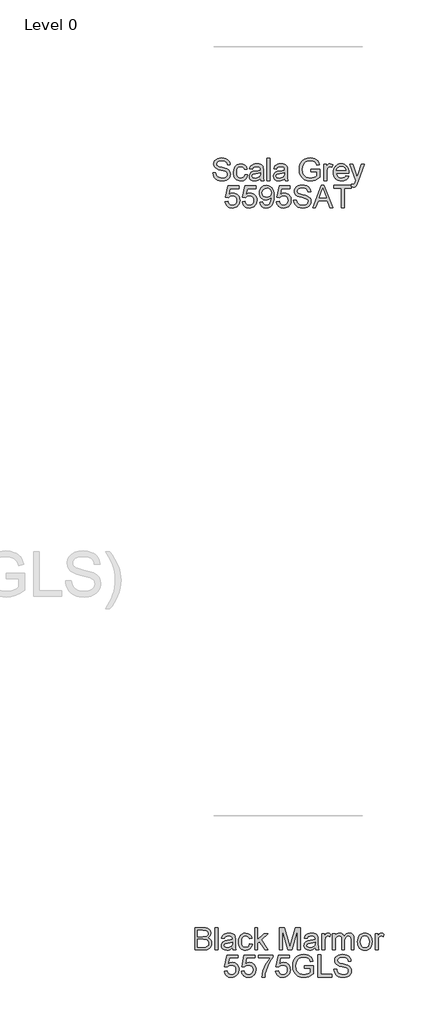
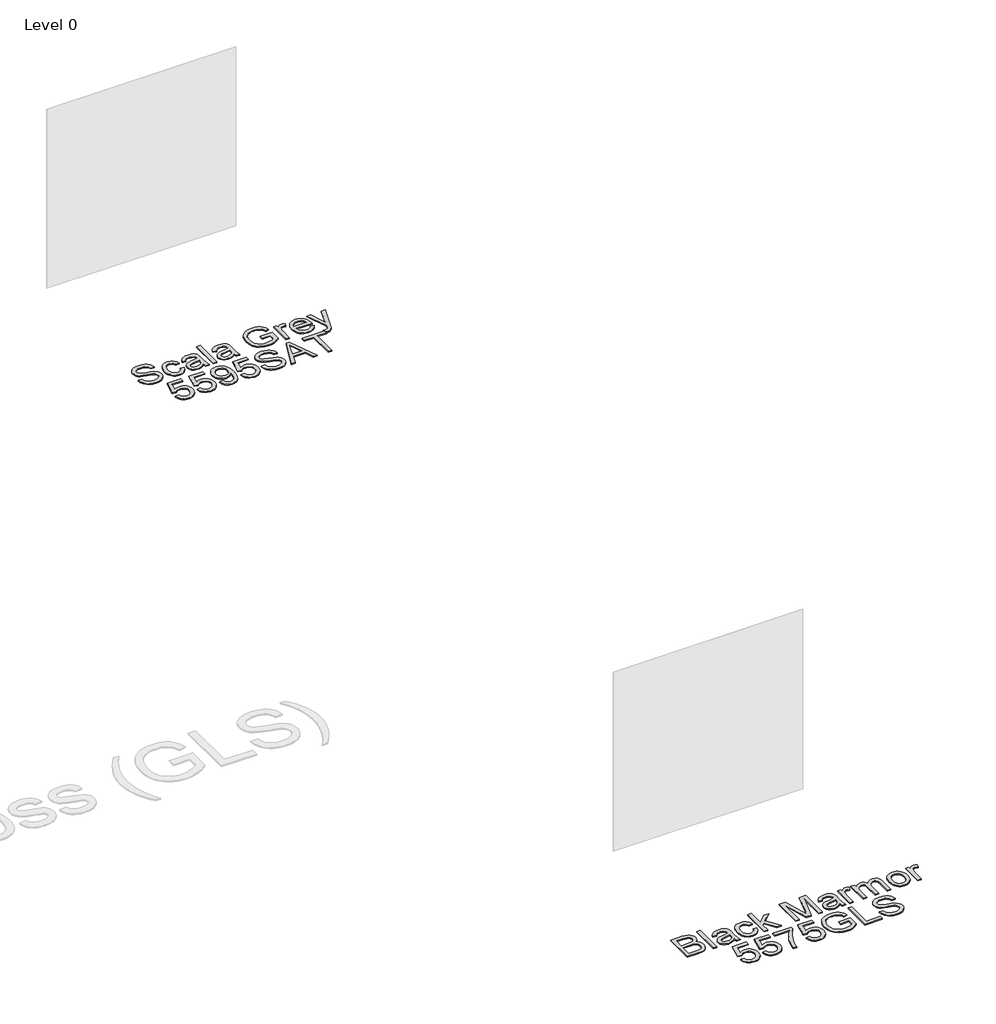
# One storey, part 12 of 29: 2 proxies.
"""IFC4 building model written with IfcOpenShell, lengths in millimetres."""

from ifc_helpers import new_model, si_unit, origin, origin_with_axes, place, context, project, spatial, polyline, outline, extrude, element, save

model = new_model("IFC4")

# Units and contexts
model_context = context("Model", 3, world=origin())
ifc_project = project(units=[si_unit("LENGTHUNIT", "METRE", prefix="MILLI")], contexts=[model_context])

# Site, building, storey
site = spatial("IfcSite", under=ifc_project)
building = spatial("IfcBuilding", under=site)
storey = spatial("IfcBuildingStorey", under=building, Name="Level 0", Elevation=0.0)

# Proxies
placement = place(None, origin())
element("IfcBuildingElementProxy", 1, Name="300mm Arial", ObjectType="300mm Arial", at=placement, inside=storey, context=model_context, shape_type="SweptSolid", body=[
    extrude(outline(polyline([(-707.931563, -42386.5303751), (-707.931563, -42085.1614447), (-592.9316513, -42085.1614447), (-561.3029968, -42087.3779337), (-536.6089179, -42094.0274008), (-517.6813892, -42105.2753928), (-503.3523855, -42121.2874566), (-494.3300796, -42140.1230148), (-491.3226443, -42159.8414897), (-493.851833, -42177.9872691), (-501.4393991, -42195.0477966), (-514.140525, -42209.9746086), (-532.0103929, -42221.7192413), (-510.6640402, -42232.8660657), (-494.8910996, -42249.8254257), (-485.1514238, -42271.4752811), (-481.9048652, -42296.6935919), (-484.1213542, -42317.7088509), (-490.7708213, -42337.1973996), (-500.6944381, -42353.7704835), (-512.7333764, -42366.039348), (-527.4762473, -42374.9236982), (-545.5116622, -42381.343239), (-593.8145681, -42386.5303751), (-707.931563, -42386.5303751)]), holes=[polyline([(-670.2604467, -42207.5925727), (-601.4665136, -42207.5925727), (-561.2937997, -42204.3552111), (-547.2315105, -42198.7726018), (-537.1239527, -42190.4124835), (-531.0263086, -42179.4036148), (-528.9937606, -42165.8747544), (-530.8883528, -42152.7413672), (-536.5721297, -42141.3002371), (-545.7875736, -42132.3699017), (-558.2771674, -42126.7688983), (-606.690438, -42122.832561), (-670.2604467, -42122.832561), (-670.2604467, -42207.5925727)]), polyline([(-670.2604467, -42348.8592588), (-593.0052277, -42348.8592588), (-565.0461961, -42347.3877308), (-541.3913838, -42339.1839623), (-525.7196108, -42322.4453316), (-521.1118888, -42310.6179254), (-519.5759815, -42297.0614739), (-521.3786033, -42281.3161245), (-526.7864686, -42267.7780671), (-536.2318388, -42257.1922627), (-550.1469753, -42250.3036723), (-569.8562532, -42246.5236848), (-596.6840477, -42245.263689), (-670.2604467, -42245.263689), (-670.2604467, -42348.8592588)])]), origin_with_axes(), (0.0, 0.0, 1.0), 10.0),
    extrude(outline(polyline([(-434.8159698, -42386.5303751), (-434.8159698, -42085.1614447), (-397.1448535, -42085.1614447), (-397.1448535, -42386.5303751), (-434.8159698, -42386.5303751)])), origin_with_axes(), (0.0, 0.0, 1.0), 10.0),
    extrude(outline(polyline([(-199.3714929, -42358.2770379), (-217.3701195, -42373.7096876), (-235.902175, -42383.8080484), (-255.3907237, -42389.3814606), (-276.2588299, -42391.2392647), (-307.7403316, -42386.7694984), (-330.9628826, -42373.3601997), (-345.2826892, -42352.9979313), (-350.0559581, -42327.6692559), (-348.2533363, -42312.0526652), (-342.845471, -42297.8708143), (-334.5037468, -42285.7307084), (-323.8995483, -42276.239353), (-297.5224092, -42263.8785179), (-264.9280644, -42258.2131352), (-226.4108195, -42252.2534469), (-199.5922221, -42245.263689), (-199.3714929, -42236.8759795), (-201.965061, -42220.0637723), (-209.7457652, -42209.0641006), (-227.1465835, -42200.8971204), (-251.390007, -42198.1747936), (-273.8308087, -42199.9866124), (-289.5025817, -42205.4220689), (-300.1895537, -42215.4744444), (-307.6759523, -42231.1370204), (-345.3470686, -42226.4281308), (-338.8079661, -42205.8267391), (-329.0498962, -42189.6399313), (-315.1623509, -42177.2607022), (-296.2348222, -42168.0820464), (-273.0858477, -42162.3982696), (-246.5339647, -42160.5036773), (-221.0673336, -42162.1775404), (-200.8798091, -42167.1991296), (-185.6586915, -42174.7499075), (-175.0912812, -42184.0113368), (-168.0831292, -42195.4616639), (-163.5397866, -42209.5791354), (-161.7003766, -42242.5413622), (-161.7003766, -42289.4095284), (-159.7873902, -42354.8557353), (-152.2825975, -42386.5303751), (-189.9537138, -42386.5303751), (-199.3714929, -42358.2770379)]), holes=[polyline([(-199.3714929, -42282.9348053), (-260.1455985, -42294.4862999), (-292.5560023, -42300.593141), (-307.2344939, -42310.5259549), (-312.3848418, -42325.0205055), (-309.5797416, -42336.2225123), (-301.164441, -42345.4011681), (-287.3228809, -42351.5264033), (-268.2390024, -42353.5681484), (-248.0054927, -42351.3148711), (-230.1264277, -42344.5550395), (-215.6318771, -42334.5946345), (-205.5519104, -42322.7396372), (-201.0821442, -42310.5259549), (-199.5922221, -42293.6033831), (-199.3714929, -42282.9348053)])]), origin_with_axes(), (0.0, 0.0, 1.0), 10.0),
    extrude(outline(polyline([(31.3640945, -42306.479253), (69.0352108, -42311.1881425), (58.5321798, -42344.6929952), (38.7953108, -42370.0124735), (11.6824077, -42385.9325669), (-20.9487252, -42391.2392647), (-42.0766481, -42389.3883584), (-61.0202716, -42383.8356395), (-77.7795957, -42374.5811081), (-92.3546205, -42361.624764), (-104.1521362, -42345.2103293), (-112.5789332, -42325.5815256), (-117.6350114, -42302.7383529), (-119.3203707, -42276.6808114), (-116.4416941, -42243.1575646), (-107.8056643, -42214.104084), (-93.2743255, -42190.6424097), (-72.709722, -42173.8945819), (-48.1076135, -42163.8514034), (-21.46376, -42160.5036773), (10.3672296, -42165.1022022), (35.8154666, -42178.897777), (54.0716106, -42201.1546378), (64.3263213, -42231.1370204), (26.6552049, -42235.8459099), (19.8217969, -42219.4107818), (9.1808102, -42207.6293609), (-4.679144, -42200.5384354), (-21.1694544, -42198.1747936), (-45.5140455, -42202.8285008), (-64.8370473, -42216.7896225), (-77.4462026, -42240.8123168), (-81.6492544, -42275.6507418), (-77.5381731, -42310.9582163), (-65.2049293, -42335.063684), (-46.2314153, -42348.9420323), (-22.199524, -42353.5681484), (-2.6925812, -42350.6802747), (13.3010885, -42342.0166537), (24.9353566, -42327.3565562), (31.3640945, -42306.479253)])), origin_with_axes(), (0.0, 0.0, 1.0), 10.0),
    extrude(outline(polyline([(101.9974376, -42386.5303751), (101.9974376, -42085.1614447), (139.6685539, -42085.1614447), (139.6685539, -42247.1030989), (224.13426, -42165.2125668), (276.2263505, -42165.2125668), (190.7305748, -42248.1331685), (280.93524, -42386.5303751), (236.9365534, -42386.5303751), (163.7280363, -42274.3263666), (139.6685539, -42297.6500851), (139.6685539, -42386.5303751), (101.9974376, -42386.5303751)])), origin_with_axes(), (0.0, 0.0, 1.0), 10.0),
    extrude(outline(polyline([(436.3285948, -42386.5303751), (436.3285948, -42085.1614447), (501.1494023, -42085.1614447), (562.8064247, -42297.5765087), (575.2408362, -42341.9430773), (588.7053172, -42293.8976887), (649.33227, -42085.1614447), (714.1530775, -42085.1614447), (714.1530775, -42386.5303751), (676.4819612, -42386.5303751), (676.4819612, -42122.832561), (600.7718466, -42386.5303751), (549.7098257, -42386.5303751), (473.9997111, -42122.832561), (473.9997111, -42386.5303751), (436.3285948, -42386.5303751)])), origin_with_axes(), (0.0, 0.0, 1.0), 10.0),
    extrude(outline(polyline([(916.6353277, -42358.2770379), (898.6367011, -42373.7096876), (880.1046456, -42383.8080484), (860.6160969, -42389.3814606), (839.7479907, -42391.2392647), (808.2664889, -42386.7694984), (785.043938, -42373.3601997), (770.7241313, -42352.9979313), (765.9508625, -42327.6692559), (767.7534842, -42312.0526652), (773.1613496, -42297.8708143), (781.5030738, -42285.7307084), (792.1072723, -42276.239353), (818.4844114, -42263.8785179), (851.0787561, -42258.2131352), (889.596001, -42252.2534469), (916.4145985, -42245.263689), (916.6353277, -42236.8759795), (914.0417596, -42220.0637723), (906.2610554, -42209.0641006), (888.860237, -42200.8971204), (864.6168136, -42198.1747936), (842.1760119, -42199.9866124), (826.5042389, -42205.4220689), (815.8172669, -42215.4744444), (808.3308683, -42231.1370204), (770.659752, -42226.4281308), (777.1988545, -42205.8267391), (786.9569244, -42189.6399313), (800.8444697, -42177.2607022), (819.7719983, -42168.0820464), (842.9209729, -42162.3982696), (869.4728559, -42160.5036773), (894.939487, -42162.1775404), (915.1270115, -42167.1991296), (930.348129, -42174.7499075), (940.9155394, -42184.0113368), (947.9236914, -42195.4616639), (952.467034, -42209.5791354), (954.306444, -42242.5413622), (954.306444, -42289.4095284), (956.2194304, -42354.8557353), (963.7242231, -42386.5303751), (926.0531068, -42386.5303751), (916.6353277, -42358.2770379)]), holes=[polyline([(916.6353277, -42282.9348053), (855.8612221, -42294.4862999), (823.4508183, -42300.593141), (808.7723267, -42310.5259549), (803.6219788, -42325.0205055), (806.427079, -42336.2225123), (814.8423796, -42345.4011681), (828.6839397, -42351.5264033), (847.7678182, -42353.5681484), (868.0013279, -42351.3148711), (885.8803929, -42344.5550395), (900.3749435, -42334.5946345), (910.4549102, -42322.7396372), (914.9246764, -42310.5259549), (916.4145985, -42293.6033831), (916.6353277, -42282.9348053)])]), origin_with_axes(), (0.0, 0.0, 1.0), 10.0),
    extrude(outline(polyline([(1006.1042289, -42386.5303751), (1006.1042289, -42165.2125668), (1039.0664557, -42165.2125668), (1039.0664557, -42197.9540644), (1051.2433497, -42178.9713534), (1062.4637506, -42167.7877408), (1073.7209396, -42162.3246932), (1086.0081983, -42160.5036773), (1104.77018, -42163.409945), (1123.8264674, -42172.1287483), (1111.2449031, -42205.9003155), (1098.0011513, -42200.1061741), (1084.7573995, -42198.1747936), (1073.5094075, -42200.0325977), (1063.457032, -42205.6060099), (1055.3360369, -42214.471966), (1049.8821863, -42226.2074016), (1045.3020555, -42247.2502517), (1043.7753452, -42270.2060882), (1043.7753452, -42386.5303751), (1006.1042289, -42386.5303751)])), origin_with_axes(), (0.0, 0.0, 1.0), 10.0),
    extrude(outline(polyline([(1147.3709151, -42386.5303751), (1147.3709151, -42165.2125668), (1185.0420314, -42165.2125668), (1185.0420314, -42201.6328843), (1196.3727968, -42184.9034506), (1210.9409238, -42171.7976545), (1228.2497717, -42163.3271716), (1247.8026997, -42160.5036773), (1268.7535794, -42163.3823539), (1285.5473924, -42172.0183837), (1298.0921685, -42185.8415497), (1306.295937, -42204.2816347), (1320.0271324, -42185.1287783), (1335.6897084, -42171.4481666), (1353.2836648, -42163.2397996), (1372.8090017, -42160.5036773), (1401.1267183, -42165.056217), (1422.0684009, -42178.713836), (1435.00865, -42201.8444165), (1439.3220664, -42234.8158403), (1439.3220664, -42386.5303751), (1401.6509501, -42386.5303751), (1401.6509501, -42251.0026481), (1398.1560712, -42219.5487375), (1393.2448465, -42210.8759195), (1385.5009305, -42204.0609055), (1375.5405255, -42199.6463216), (1363.9798338, -42198.1747936), (1343.5715801, -42201.945584), (1326.9341169, -42213.2579554), (1315.8700659, -42232.8844598), (1312.1820489, -42261.5976496), (1312.1820489, -42386.5303751), (1274.5109326, -42386.5303751), (1274.5109326, -42246.8087934), (1272.3312318, -42225.5084258), (1265.7921293, -42210.3148994), (1254.2866199, -42201.2098201), (1237.2076983, -42198.1747936), (1222.6947536, -42200.1981446), (1209.322243, -42206.2681975), (1198.2857832, -42216.2377996), (1190.7809905, -42229.959798), (1186.4767711, -42248.9976912), (1185.0420314, -42274.9149778), (1185.0420314, -42386.5303751), (1147.3709151, -42386.5303751)])), origin_with_axes(), (0.0, 0.0, 1.0), 10.0),
    extrude(outline(polyline([(1486.4109618, -42275.871471), (1488.4481084, -42247.208865), (1494.559548, -42222.5101876), (1504.7452807, -42201.7754386), (1519.0053066, -42185.0046182), (1533.3619014, -42174.2854565), (1549.2084184, -42166.6289125), (1566.5448574, -42162.0349861), (1585.3712185, -42160.5036773), (1606.154252, -42162.3683791), (1624.9461241, -42167.9624847), (1641.746835, -42177.2859941), (1656.5563846, -42190.3389071), (1668.6436074, -42206.6797655), (1677.277338, -42225.8671108), (1682.4575763, -42247.900943), (1684.1843224, -42272.7812622), (1681.1309019, -42310.8386546), (1671.9706402, -42339.8093617), (1656.9702518, -42361.5052024), (1636.3964512, -42377.7379954), (1611.9598897, -42387.8639474), (1585.3712185, -42391.2392647), (1564.2846824, -42389.3814606), (1545.3180663, -42383.8080484), (1528.4713702, -42374.519028), (1513.744594, -42361.5143994), (1501.7861299, -42345.014892), (1493.2443699, -42325.2412347), (1488.1193138, -42302.1934277), (1486.4109618, -42275.871471)]), holes=[polyline([(1524.0820781, -42275.7978946), (1528.4414798, -42309.8913585), (1541.5196847, -42334.1807672), (1561.2013714, -42348.7213031), (1585.3712185, -42353.5681484), (1609.430701, -42348.6937119), (1629.0755995, -42334.0704026), (1642.1538045, -42309.4590971), (1646.5132061, -42274.6206722), (1642.1262133, -42241.5204897), (1628.9652349, -42217.5621747), (1609.2927452, -42203.0216389), (1585.3712185, -42198.1747936), (1561.2013714, -42203.0032448), (1541.5196847, -42217.4885983), (1528.4414798, -42241.7228248), (1524.0820781, -42275.7978946)])]), origin_with_axes(), (0.0, 0.0, 1.0), 10.0),
    extrude(outline(polyline([(1726.5643283, -42386.5303751), (1726.5643283, -42165.2125668), (1759.526555, -42165.2125668), (1759.526555, -42197.9540644), (1771.7034491, -42178.9713534), (1782.9238499, -42167.7877408), (1794.181039, -42162.3246932), (1806.4682976, -42160.5036773), (1825.2302794, -42163.409945), (1844.2865667, -42172.1287483), (1831.7050025, -42205.9003155), (1818.4612507, -42200.1061741), (1805.2174988, -42198.1747936), (1793.9695068, -42200.0325977), (1783.9171313, -42205.6060099), (1775.7961363, -42214.471966), (1770.3422857, -42226.2074016), (1765.7621548, -42247.2502517), (1764.2354446, -42270.2060882), (1764.2354446, -42386.5303751), (1726.5643283, -42386.5303751)])), origin_with_axes(), (0.0, 0.0, 1.0), 10.0),
    extrude(outline(polyline([(-310.030397, -42672.4037065), (-272.3592807, -42667.694817), (-265.4430992, -42690.3103626), (-253.3765698, -42706.5063675), (-236.2148747, -42716.2460433), (-214.0131963, -42719.4926019), (-187.0106579, -42714.9768504), (-166.7771481, -42701.4295959), (-154.1404016, -42680.414337), (-149.9281527, -42653.494572), (-153.8736871, -42628.1475025), (-165.7102903, -42608.7601213), (-185.5299328, -42596.4544686), (-213.4245851, -42592.3525844), (-231.6991232, -42593.9896592), (-246.4971765, -42598.9008839), (-267.6503912, -42615.897032), (-305.3215075, -42611.1881425), (-272.3592807, -42455.7947877), (-126.383705, -42455.7947877), (-126.383705, -42493.4659041), (-241.8986515, -42493.4659041), (-258.0118829, -42576.4600822), (-231.101315, -42560.1261216), (-202.90316, -42554.681468), (-184.5573448, -42556.3691267), (-167.7060502, -42561.4321027), (-152.3492761, -42569.8703959), (-138.4870227, -42581.6840065), (-127.0114037, -42596.150966), (-118.814533, -42612.5493059), (-113.8964106, -42630.8790263), (-112.2570364, -42651.1401272), (-118.1615425, -42688.8112435), (-125.542175, -42705.6050566), (-135.8750605, -42721.0377063), (-151.5284394, -42736.8428365), (-169.7937805, -42748.1322152), (-190.6710837, -42754.9058424), (-214.1603491, -42757.1637182), (-251.1600808, -42751.3603797), (-266.8387515, -42744.1062066), (-280.6366256, -42733.9503643), (-292.1168431, -42721.3986905), (-300.8425442, -42706.9570229), (-310.030397, -42672.4037065)])), origin_with_axes(), (0.0, 0.0, 1.0), 10.0),
    extrude(outline(polyline([(-79.2948097, -42672.4037065), (-41.6236934, -42667.694817), (-34.7075119, -42690.3103626), (-22.6409824, -42706.5063675), (-5.4792873, -42716.2460433), (16.7223911, -42719.4926019), (43.7249295, -42714.9768504), (63.9584393, -42701.4295959), (76.5951858, -42680.414337), (80.8074346, -42653.494572), (76.8619002, -42628.1475025), (65.025297, -42608.7601213), (45.2056546, -42596.4544686), (17.3110023, -42592.3525844), (-0.9635358, -42593.9896592), (-15.7615891, -42598.9008839), (-36.9148038, -42615.897032), (-74.5859201, -42611.1881425), (-41.6236934, -42455.7947877), (104.3518823, -42455.7947877), (104.3518823, -42493.4659041), (-11.1630642, -42493.4659041), (-27.2762955, -42576.4600822), (-0.3657276, -42560.1261216), (27.8324273, -42554.681468), (46.1782426, -42556.3691267), (63.0295372, -42561.4321027), (78.3863113, -42569.8703959), (92.2485647, -42581.6840065), (103.7241837, -42596.150966), (111.9210544, -42612.5493059), (116.8391768, -42630.8790263), (118.4785509, -42651.1401272), (112.5740449, -42688.8112435), (105.1934124, -42705.6050566), (94.8605269, -42721.0377063), (79.207148, -42736.8428365), (60.9418069, -42748.1322152), (40.0645037, -42754.9058424), (16.5752383, -42757.1637182), (-20.4244934, -42751.3603797), (-36.1031642, -42744.1062066), (-49.9010383, -42733.9503643), (-61.3812558, -42721.3986905), (-70.1069568, -42706.9570229), (-79.2948097, -42672.4037065)])), origin_with_axes(), (0.0, 0.0, 1.0), 10.0),
    extrude(outline(polyline([(151.4407777, -42493.4659041), (151.4407777, -42455.7947877), (349.2141383, -42455.7947877), (349.2141383, -42486.2554169), (321.0251804, -42521.9307734), (293.1121341, -42567.2998205), (268.4916315, -42618.2238857), (250.1803052, -42670.5642965), (241.2039845, -42709.7253349), (236.2007894, -42752.4548287), (198.5296731, -42752.4548287), (202.6039662, -42713.6248841), (213.5024703, -42667.4740878), (230.9308798, -42618.5549795), (254.5948892, -42571.4200988), (282.222827, -42528.8101667), (311.543022, -42493.4659041), (151.4407777, -42493.4659041)])), origin_with_axes(), (0.0, 0.0, 1.0), 10.0),
    extrude(outline(polyline([(382.1763651, -42672.4037065), (419.8474814, -42667.694817), (426.7636629, -42690.3103626), (438.8301923, -42706.5063675), (455.9918874, -42716.2460433), (478.1935658, -42719.4926019), (505.1961043, -42714.9768504), (525.429614, -42701.4295959), (538.0663605, -42680.414337), (542.2786094, -42653.494572), (538.333075, -42628.1475025), (526.4964718, -42608.7601213), (506.6768293, -42596.4544686), (478.782177, -42592.3525844), (460.5076389, -42593.9896592), (445.7095857, -42598.9008839), (424.5563709, -42615.897032), (386.8852546, -42611.1881425), (419.8474814, -42455.7947877), (565.8230571, -42455.7947877), (565.8230571, -42493.4659041), (450.3081106, -42493.4659041), (434.1948792, -42576.4600822), (461.1054471, -42560.1261216), (489.3036021, -42554.681468), (507.6494173, -42556.3691267), (524.500712, -42561.4321027), (539.857486, -42569.8703959), (553.7197394, -42581.6840065), (565.1953584, -42596.150966), (573.3922291, -42612.5493059), (578.3103516, -42630.8790263), (579.9497257, -42651.1401272), (574.0452197, -42688.8112435), (566.6645871, -42705.6050566), (556.3317016, -42721.0377063), (540.6783227, -42736.8428365), (522.4129816, -42748.1322152), (501.5356784, -42754.9058424), (478.046413, -42757.1637182), (441.0466814, -42751.3603797), (425.3680106, -42744.1062066), (411.5701365, -42733.9503643), (400.089919, -42721.3986905), (391.3642179, -42706.9570229), (382.1763651, -42672.4037065)])), origin_with_axes(), (0.0, 0.0, 1.0), 10.0),
    extrude(outline(polyline([(768.3053072, -42634.7325902), (768.3053072, -42597.0614739), (890.7364352, -42597.0614739), (890.7364352, -42709.7069408), (860.9839789, -42730.400303), (830.2934234, -42745.2443416), (798.7383453, -42754.183874), (766.3923208, -42757.1637182), (724.1318767, -42752.4272375), (685.9365285, -42738.2177954), (654.2067064, -42715.0320327), (631.3428404, -42683.36659), (617.5196744, -42645.382774), (612.9119525, -42603.2418914), (617.5012803, -42560.7975062), (631.269264, -42521.3145711), (653.6456864, -42488.1959945), (684.0603303, -42464.8446848), (721.1060472, -42450.9939277), (763.3756885, -42446.3770087), (794.4065348, -42449.0533502), (822.3103841, -42457.0823747), (845.8088466, -42469.8846682), (863.6235322, -42486.8808163), (876.8029046, -42508.8893567), (886.3954277, -42536.7288267), (851.6673673, -42546.5144878), (843.9142543, -42526.6580571), (834.4872782, -42511.6760628), (822.0160785, -42500.3820856), (805.1302949, -42491.5897059), (784.9979528, -42485.9335202), (762.7870773, -42484.048125), (736.7870173, -42486.080673), (714.5577477, -42492.1783171), (696.1820421, -42501.577702), (681.7426738, -42513.5154728), (662.3552926, -42542.5413622), (653.5261247, -42570.9786404), (650.5830688, -42601.696787), (654.123933, -42637.7216314), (664.7465256, -42667.3637232), (682.1289499, -42690.4115302), (705.949309, -42706.6535203), (733.8255672, -42716.2828315), (763.3756885, -42719.4926019), (789.467719, -42717.0737778), (814.915956, -42709.8173054), (837.0164669, -42699.8201122), (853.0653189, -42689.1791255), (853.0653189, -42634.7325902), (768.3053072, -42634.7325902)])), origin_with_axes(), (0.0, 0.0, 1.0), 10.0),
    extrude(outline(polyline([(951.9519992, -42752.4548287), (951.9519992, -42451.0858982), (989.6231155, -42451.0858982), (989.6231155, -42714.7837124), (1140.3075807, -42714.7837124), (1140.3075807, -42752.4548287), (951.9519992, -42752.4548287)])), origin_with_axes(), (0.0, 0.0, 1.0), 10.0),
    extrude(outline(polyline([(1168.560918, -42648.8592588), (1206.2320343, -42648.8592588), (1210.5546477, -42669.7641532), (1218.3721401, -42686.5671633), (1230.5674283, -42699.9028856), (1248.0234289, -42710.4059166), (1269.3605847, -42717.2209306), (1293.1993379, -42719.4926019), (1314.1870058, -42717.7727536), (1332.5627114, -42712.6132086), (1347.4527352, -42704.4462283), (1357.9833573, -42693.704074), (1364.2465483, -42681.3708301), (1366.3342786, -42668.430581), (1364.7707801, -42655.8214256), (1360.0802847, -42644.9229215), (1350.552141, -42635.624704), (1334.4756978, -42627.8164087), (1279.6244923, -42613.4322227), (1243.618042, -42603.9132761), (1220.5794321, -42594.8541819), (1201.8266474, -42582.1806472), (1188.5369103, -42566.8215739), (1180.6182504, -42549.1080558), (1177.9786971, -42529.3711868), (1181.2436498, -42507.3074641), (1191.0385079, -42486.7336635), (1207.105754, -42469.296057), (1229.1878708, -42456.6409163), (1255.6937685, -42448.9429856), (1285.0323576, -42446.3770087), (1316.817362, -42449.0625472), (1344.6292409, -42457.1191629), (1367.4747128, -42470.3813089), (1384.3604963, -42488.6834381), (1395.0474683, -42510.8851165), (1399.2965053, -42535.8459099), (1361.625389, -42535.8459099), (1354.7092075, -42513.36832), (1340.2882333, -42497.144724), (1317.7554611, -42487.3222747), (1286.5038856, -42484.048125), (1254.5165461, -42487.2854865), (1232.5723851, -42496.9975712), (1219.8804563, -42511.2897867), (1215.6498134, -42528.2675408), (1218.6480516, -42542.7436973), (1227.6427664, -42554.3871625), (1248.9063457, -42564.7982229), (1289.152636, -42575.4300126), (1330.6865132, -42585.5283733), (1355.8128535, -42594.3391471), (1377.287965, -42608.0059633), (1392.2699592, -42624.8733527), (1401.071536, -42644.7573746), (1404.0053949, -42667.4740878), (1400.6300776, -42690.6966387), (1390.5041257, -42712.5396322), (1374.0414064, -42731.3384021), (1351.655787, -42745.4282825), (1324.736022, -42754.2298593), (1294.6708659, -42757.1637182), (1257.7631048, -42753.999933), (1227.385249, -42744.5085776), (1203.1878108, -42728.6528636), (1184.8213022, -42706.3960029), (1173.0306842, -42679.2830998), (1168.560918, -42648.8592588)])), origin_with_axes(), (0.0, 0.0, 1.0), 10.0),
])
element("IfcBuildingElementProxy", 2, Name="300mm Arial", ObjectType="300mm Arial", at=placement, inside=storey, context=model_context, shape_type="SweptSolid", body=[
    extrude(outline(polyline([(-463.069307, -31919.2649241), (-425.3981907, -31919.2649241), (-421.0755773, -31940.1698185), (-413.2580849, -31956.9728286), (-401.0627967, -31970.308551), (-383.6067961, -31980.8115819), (-362.2696404, -31987.6265959), (-338.4308871, -31989.8982672), (-317.4432192, -31988.1784189), (-299.0675136, -31983.0188739), (-284.1774898, -31974.8518936), (-273.6468677, -31964.1097394), (-267.3836767, -31951.7764955), (-265.2959464, -31938.8362463), (-266.8594449, -31926.2270909), (-271.5499403, -31915.3285868), (-281.078084, -31906.0303694), (-297.1545272, -31898.222074), (-352.0057327, -31883.837888), (-388.012183, -31874.3189414), (-411.0507929, -31865.2598472), (-429.8035776, -31852.5863125), (-443.0933147, -31837.2272392), (-451.0119746, -31819.5137211), (-453.651528, -31799.7768521), (-450.3865753, -31777.7131294), (-440.5917171, -31757.1393289), (-424.524471, -31739.7017223), (-402.4423542, -31727.0465817), (-375.9364565, -31719.3486509), (-346.5978674, -31716.782674), (-314.812863, -31719.4682126), (-287.0009841, -31727.5248283), (-264.1555122, -31740.7869742), (-247.2697287, -31759.0891034), (-236.5827567, -31781.2907818), (-232.3337197, -31806.2515752), (-270.004836, -31806.2515752), (-276.9210175, -31783.7739853), (-291.3419917, -31767.5503893), (-313.8747639, -31757.7279401), (-345.1263394, -31754.4537903), (-377.1136789, -31757.6911519), (-399.0578399, -31767.4032365), (-411.7497687, -31781.695452), (-415.9804117, -31798.6732061), (-412.9821734, -31813.1493626), (-403.9874586, -31824.7928278), (-382.7238793, -31835.2038882), (-342.477589, -31845.8356779), (-300.9437118, -31855.9340387), (-275.8173715, -31864.7448125), (-254.34226, -31878.4116286), (-239.3602658, -31895.2790181), (-230.558689, -31915.1630399), (-227.6248301, -31937.8797531), (-231.0001474, -31961.102304), (-241.1260993, -31982.9452975), (-257.5888186, -32001.7440675), (-279.974438, -32015.8339479), (-306.894203, -32024.6355246), (-336.9593591, -32027.5693835), (-373.8671203, -32024.4055984), (-404.244976, -32014.9142429), (-428.4424142, -31999.0585289), (-446.8089228, -31976.8016682), (-458.5995408, -31949.6887651), (-463.069307, -31919.2649241)])), origin_with_axes(), (0.0, 0.0, 1.0), 10.0),
    extrude(outline(polyline([(-34.5603591, -31942.8093718), (3.1107573, -31947.5182614), (-7.3922737, -31981.0231141), (-27.1291427, -32006.3425924), (-54.2420458, -32022.2626857), (-86.8731788, -32027.5693835), (-108.0011016, -32025.7184772), (-126.9447251, -32020.1657584), (-143.7040492, -32010.9112269), (-158.279074, -31997.9548829), (-170.0765898, -31981.5404481), (-178.5033867, -31961.9116444), (-183.5594649, -31939.0684718), (-185.2448243, -31913.0109302), (-182.3661477, -31879.4876834), (-173.7301178, -31850.4342028), (-159.198779, -31826.9725286), (-138.6341755, -31810.2247008), (-114.0320671, -31800.1815223), (-87.3882136, -31796.8337961), (-55.5572239, -31801.4323211), (-30.1089869, -31815.2278959), (-11.8528429, -31837.4847566), (-1.5981323, -31867.4671392), (-39.2692486, -31872.1760288), (-46.1026567, -31855.7409006), (-56.7436434, -31843.9594797), (-70.6035975, -31836.8685543), (-87.093908, -31834.5049125), (-111.438499, -31839.1586197), (-130.7615008, -31853.1197414), (-143.3706562, -31877.1424357), (-147.573708, -31911.9808606), (-143.4626267, -31947.2883351), (-131.1293828, -31971.3938029), (-112.1558689, -31985.2721511), (-88.1239775, -31989.8982672), (-68.6170348, -31987.0103936), (-52.623365, -31978.3467726), (-40.9890969, -31963.6866751), (-34.5603591, -31942.8093718)])), origin_with_axes(), (0.0, 0.0, 1.0), 10.0),
    extrude(outline(polyline([(177.3396702, -31994.6071568), (159.3410436, -32010.0398064), (140.808988, -32020.1381672), (121.3204394, -32025.7115794), (100.4523332, -32027.5693835), (68.9708314, -32023.0996173), (45.7482805, -32009.6903186), (31.4284738, -31989.3280501), (26.6552049, -31963.9993748), (28.4578267, -31948.3827841), (33.8656921, -31934.2009331), (42.2074163, -31922.0608273), (52.8116148, -31912.5694718), (79.1887539, -31900.2086368), (111.7830986, -31894.5432541), (150.3003435, -31888.5835657), (177.118941, -31881.5938078), (177.3396702, -31873.2060983), (174.7461021, -31856.3938912), (166.9653979, -31845.3942195), (149.5645795, -31837.2272392), (125.3211561, -31834.5049125), (102.8803543, -31836.3167313), (87.2085814, -31841.7521878), (76.5216094, -31851.8045633), (69.0352108, -31867.4671392), (31.3640945, -31862.7582497), (37.9031969, -31842.156858), (47.6612669, -31825.9700502), (61.5488122, -31813.590821), (80.4763408, -31804.4121652), (103.6253154, -31798.7283884), (130.1771984, -31796.8337961), (155.6438295, -31798.5076592), (175.831354, -31803.5292485), (191.0524715, -31811.0800264), (201.6198819, -31820.3414556), (208.6280339, -31831.7917827), (213.1713765, -31845.9092543), (215.0107865, -31878.8714811), (215.0107865, -31925.7396473), (216.9237729, -31991.1858542), (224.4285656, -32022.860494), (186.7574492, -32022.860494), (177.3396702, -31994.6071568)]), holes=[polyline([(177.3396702, -31919.2649241), (116.5655646, -31930.8164188), (84.1551608, -31936.9232599), (69.4766692, -31946.8560738), (64.3263213, -31961.3506244), (67.1314215, -31972.5526311), (75.5467221, -31981.7312869), (89.3882822, -31987.8565221), (108.4721607, -31989.8982672), (128.7056704, -31987.64499), (146.5847354, -31980.8851583), (161.079286, -31970.9247533), (171.1592527, -31959.069756), (175.6290189, -31946.8560738), (177.118941, -31929.933502), (177.3396702, -31919.2649241)])]), origin_with_axes(), (0.0, 0.0, 1.0), 10.0),
    extrude(outline(polyline([(266.8085714, -32022.860494), (266.8085714, -31721.4915635), (304.4796877, -31721.4915635), (304.4796877, -32022.860494), (266.8085714, -32022.860494)])), origin_with_axes(), (0.0, 0.0, 1.0), 10.0),
    extrude(outline(polyline([(502.2530483, -31994.6071568), (484.2544217, -32010.0398064), (465.7223662, -32020.1381672), (446.2338175, -32025.7115794), (425.3657113, -32027.5693835), (393.8842096, -32023.0996173), (370.6616586, -32009.6903186), (356.341852, -31989.3280501), (351.5685831, -31963.9993748), (353.3712049, -31948.3827841), (358.7790702, -31934.2009331), (367.1207944, -31922.0608273), (377.7249929, -31912.5694718), (404.102132, -31900.2086368), (436.6964768, -31894.5432541), (475.2137217, -31888.5835657), (502.0323191, -31881.5938078), (502.2530483, -31873.2060983), (499.6594802, -31856.3938912), (491.878776, -31845.3942195), (474.4779577, -31837.2272392), (450.2345342, -31834.5049125), (427.7937325, -31836.3167313), (412.1219595, -31841.7521878), (401.4349875, -31851.8045633), (393.9485889, -31867.4671392), (356.2774726, -31862.7582497), (362.8165751, -31842.156858), (372.574645, -31825.9700502), (386.4621903, -31813.590821), (405.389719, -31804.4121652), (428.5386935, -31798.7283884), (455.0905765, -31796.8337961), (480.5572076, -31798.5076592), (500.7447321, -31803.5292485), (515.9658497, -31811.0800264), (526.53326, -31820.3414556), (533.541412, -31831.7917827), (538.0847546, -31845.9092543), (539.9241646, -31878.8714811), (539.9241646, -31925.7396473), (541.837151, -31991.1858542), (549.3419437, -32022.860494), (511.6708274, -32022.860494), (502.2530483, -31994.6071568)]), holes=[polyline([(502.2530483, -31919.2649241), (441.4789427, -31930.8164188), (409.0685389, -31936.9232599), (394.3900473, -31946.8560738), (389.2396994, -31961.3506244), (392.0447996, -31972.5526311), (400.4601002, -31981.7312869), (414.3016603, -31987.8565221), (433.3855388, -31989.8982672), (453.6190485, -31987.64499), (471.4981135, -31980.8851583), (485.9926641, -31970.9247533), (496.0726308, -31959.069756), (500.542397, -31946.8560738), (502.0323191, -31929.933502), (502.2530483, -31919.2649241)])]), origin_with_axes(), (0.0, 0.0, 1.0), 10.0),
    extrude(outline(polyline([(855.4197637, -31905.1382555), (855.4197637, -31867.4671392), (977.8508917, -31867.4671392), (977.8508917, -31980.1126061), (948.0984353, -32000.8059684), (917.4078799, -32015.6500069), (885.8528017, -32024.5895394), (853.5067773, -32027.5693835), (811.2463331, -32022.8329028), (773.050985, -32008.6234608), (741.3211629, -31985.437698), (718.4572969, -31953.7722553), (704.6341309, -31915.7884393), (700.0264089, -31873.6475567), (704.6157368, -31831.2031715), (718.3837205, -31791.7202364), (740.7601428, -31758.6016598), (771.1747868, -31735.2503502), (808.2205037, -31721.399593), (850.4901449, -31716.782674), (881.5209912, -31719.4590155), (909.4248406, -31727.4880401), (932.923303, -31740.2903335), (950.7379886, -31757.2864817), (963.9173611, -31779.295022), (973.5098841, -31807.134492), (938.7818238, -31816.9201531), (931.0287107, -31797.0637224), (921.6017346, -31782.0817281), (909.130535, -31770.7877509), (892.2447514, -31761.9953712), (872.1124092, -31756.3391855), (849.9015338, -31754.4537903), (823.9014737, -31756.4863383), (801.6722042, -31762.5839824), (783.2964985, -31771.9833674), (768.8571302, -31783.9211381), (749.4697491, -31812.9470275), (740.6405812, -31841.3843058), (737.6975252, -31872.1024524), (741.2383894, -31908.1272967), (751.860982, -31937.7693885), (769.2434063, -31960.8171955), (793.0637655, -31977.0591856), (820.9400237, -31986.6884968), (850.4901449, -31989.8982672), (876.5821755, -31987.4794431), (902.0304125, -31980.2229707), (924.1309233, -31970.2257775), (940.1797754, -31959.5847908), (940.1797754, -31905.1382555), (855.4197637, -31905.1382555)])), origin_with_axes(), (0.0, 0.0, 1.0), 10.0),
    extrude(outline(polyline([(1034.3575661, -32022.860494), (1034.3575661, -31801.5426857), (1067.3197929, -31801.5426857), (1067.3197929, -31834.2841833), (1079.4966869, -31815.3014723), (1090.7170878, -31804.1178596), (1101.9742768, -31798.654812), (1114.2615355, -31796.8337961), (1133.0235172, -31799.7400639), (1152.0798046, -31808.4588672), (1139.4982404, -31842.2304343), (1126.2544885, -31836.4362929), (1113.0107367, -31834.5049125), (1101.7627447, -31836.3627165), (1091.7103692, -31841.9361288), (1083.5893741, -31850.8020848), (1078.1355236, -31862.5375205), (1073.5553927, -31883.5803706), (1072.0286824, -31906.5362071), (1072.0286824, -32022.860494), (1034.3575661, -32022.860494)])), origin_with_axes(), (0.0, 0.0, 1.0), 10.0),
    extrude(outline(polyline([(1330.5761486, -31956.9360404), (1367.511501, -31961.64493), (1354.2033698, -31989.4752029), (1332.9673816, -32010.2789297), (1304.281783, -32023.2467701), (1268.6248207, -32027.5693835), (1245.2505184, -32025.7046817), (1224.4237989, -32020.1105761), (1206.1446623, -32010.7870668), (1190.4131085, -31997.7341537), (1177.7625664, -31981.3151204), (1168.7264649, -31961.8932503), (1163.304804, -31939.4685435), (1161.4975837, -31914.0409998), (1163.3231981, -31887.7512327), (1168.8000413, -31864.5792656), (1177.9281133, -31844.5250983), (1190.7074141, -31827.5887309), (1206.3975812, -31814.133447), (1224.258252, -31804.5225298), (1244.2894267, -31798.7559796), (1266.4911051, -31796.8337961), (1287.9777129, -31798.751381), (1307.40878, -31804.5041357), (1324.7843065, -31814.0920602), (1340.1042923, -31827.5151545), (1352.6099809, -31844.4147337), (1361.5426156, -31864.4321128), (1366.9021964, -31887.5672917), (1368.6887234, -31913.8202706), (1368.4679942, -31923.9738137), (1199.1687, -31923.9738137), (1205.6894083, -31952.1719686), (1220.8369495, -31972.902119), (1242.6983371, -31985.6492302), (1269.3605847, -31989.8982672), (1289.4101534, -31987.9300985), (1306.295937, -31982.0255925), (1320.0179354, -31971.8168672), (1330.5761486, -31956.9360404)]), holes=[polyline([(1199.1687, -31886.3026974), (1331.017607, -31886.3026974), (1325.9224414, -31866.4002814), (1315.9344452, -31852.1632482), (1293.9718901, -31838.9194964), (1266.3439523, -31834.5049125), (1240.9508976, -31838.0273826), (1219.9540327, -31848.5947929), (1205.3583145, -31865.0667092), (1199.1687, -31886.3026974)])]), origin_with_axes(), (0.0, 0.0, 1.0), 10.0),
    extrude(outline(polyline([(1406.3598397, -32107.6205057), (1401.6509501, -32071.3473409), (1420.7808139, -32074.6582789), (1438.6598788, -32070.5012124), (1449.6227623, -32058.9129295), (1459.9234582, -32031.1746271), (1462.8665141, -32022.0511536), (1382.815392, -31801.5426857), (1422.5466474, -31801.5426857), (1465.0002297, -31924.4152721), (1479.7890859, -31973.5643066), (1494.5779421, -31930.1542312), (1538.2087467, -31801.5426857), (1577.6456966, -31801.5426857), (1500.6112068, -32028.1579947), (1480.5984263, -32077.3070293), (1470.3529127, -32092.9971964), (1458.7462358, -32103.8681093), (1445.2633606, -32110.2140737), (1429.3892526, -32112.3293952), (1406.3598397, -32107.6205057)])), origin_with_axes(), (0.0, 0.0, 1.0), 10.0),
    extrude(outline(polyline([(-298.2581732, -32308.7338254), (-260.5870569, -32304.0249358), (-253.6708754, -32326.6404815), (-241.6043459, -32342.8364863), (-224.4426509, -32352.5761621), (-202.2409725, -32355.8227207), (-175.238434, -32351.3069693), (-155.0049243, -32337.7597148), (-142.3681777, -32316.7444558), (-138.1559289, -32289.8246908), (-142.1014633, -32264.4776213), (-153.9380665, -32245.0902402), (-173.757709, -32232.7845875), (-201.6523613, -32228.6827032), (-219.9268994, -32230.3197781), (-234.7249526, -32235.2310027), (-255.8781674, -32252.2271509), (-293.5492837, -32247.5182614), (-260.5870569, -32092.1249066), (-114.6114812, -32092.1249066), (-114.6114812, -32129.7960229), (-230.1264277, -32129.7960229), (-246.2396591, -32212.790201), (-219.3290911, -32196.4562404), (-191.1309362, -32191.0115869), (-172.785121, -32192.6992456), (-155.9338263, -32197.7622215), (-140.5770523, -32206.2005148), (-126.7147988, -32218.0141254), (-115.2391799, -32232.4810848), (-107.0423092, -32248.8794248), (-102.1241867, -32267.2091452), (-100.4848126, -32287.470246), (-106.3893186, -32325.1413624), (-113.7699511, -32341.9351754), (-124.1028367, -32357.3678251), (-139.7562156, -32373.1729553), (-158.0215566, -32384.4623341), (-178.8988599, -32391.2359613), (-202.3881253, -32393.4938371), (-239.3878569, -32387.6904986), (-255.0665277, -32380.4363255), (-268.8644018, -32370.2804832), (-280.3446193, -32357.7288093), (-289.0703204, -32343.2871418), (-298.2581732, -32308.7338254)])), origin_with_axes(), (0.0, 0.0, 1.0), 10.0),
    extrude(outline(polyline([(-67.5225858, -32308.7338254), (-29.8514695, -32304.0249358), (-22.935288, -32326.6404815), (-10.8687586, -32342.8364863), (6.2929365, -32352.5761621), (28.4946149, -32355.8227207), (55.4971534, -32351.3069693), (75.7306631, -32337.7597148), (88.3674096, -32316.7444558), (92.5796585, -32289.8246908), (88.6341241, -32264.4776213), (76.7975209, -32245.0902402), (56.9778784, -32232.7845875), (29.0832261, -32228.6827032), (10.808688, -32230.3197781), (-3.9893653, -32235.2310027), (-25.14258, -32252.2271509), (-62.8136963, -32247.5182614), (-29.8514695, -32092.1249066), (116.1241062, -32092.1249066), (116.1241062, -32129.7960229), (0.6091597, -32129.7960229), (-15.5040717, -32212.790201), (11.4064962, -32196.4562404), (39.6046512, -32191.0115869), (57.9504664, -32192.6992456), (74.8017611, -32197.7622215), (90.1585351, -32206.2005148), (104.0207885, -32218.0141254), (115.4964075, -32232.4810848), (123.6932782, -32248.8794248), (128.6114006, -32267.2091452), (130.2507748, -32287.470246), (124.3462688, -32325.1413624), (116.9656362, -32341.9351754), (106.6327507, -32357.3678251), (90.9793718, -32373.1729553), (72.7140307, -32384.4623341), (51.8367275, -32391.2359613), (28.3474621, -32393.4938371), (-8.6522695, -32387.6904986), (-24.3309403, -32380.4363255), (-38.1288144, -32370.2804832), (-49.6090319, -32357.7288093), (-58.334733, -32343.2871418), (-67.5225858, -32308.7338254)])), origin_with_axes(), (0.0, 0.0, 1.0), 10.0),
    extrude(outline(polyline([(167.9218911, -32313.4427149), (205.5930074, -32308.7338254), (212.0309423, -32330.1169663), (222.5155792, -32344.6758963), (236.7894006, -32353.0360146), (254.5948892, -32355.8227207), (270.5701648, -32354.029296), (285.0923066, -32348.6490218), (297.158836, -32340.2705094), (305.7672747, -32329.4823699), (318.0913215, -32296.7408723), (323.5359751, -32253.0364913), (323.3152459, -32245.6788514), (310.2646321, -32261.6081418), (293.1857105, -32274.2264942), (273.3108857, -32282.4486568), (251.8725624, -32285.1893777), (233.9774026, -32283.5155146), (217.5215811, -32278.4939254), (202.5050979, -32270.12461), (188.927953, -32258.4075684), (177.6776618, -32243.9544045), (169.6417394, -32227.3767221), (164.820186, -32208.6745212), (163.2130016, -32187.8478018), (164.8983609, -32166.326705), (169.9544391, -32147.0129003), (178.3812361, -32129.9063875), (190.1787518, -32115.0071667), (204.5146533, -32102.9360387), (220.5566076, -32094.3138045), (238.3046146, -32089.1404639), (257.7586743, -32087.4160171), (285.8556617, -32091.3523544), (311.4326574, -32103.1613665), (332.8249954, -32122.254442), (348.3680097, -32148.0429699), (357.8317741, -32183.6907352), (360.9863622, -32232.3615232), (357.8409711, -32283.96617), (348.4047979, -32323.8537754), (332.7606161, -32353.8269609), (310.991199, -32375.6883485), (284.0346458, -32389.0424649), (252.8290556, -32393.4938371), (220.6209869, -32388.2423216), (194.9244295, -32372.4877751), (176.9533941, -32347.2234791), (167.9218911, -32313.4427149)]), holes=[polyline([(323.3152459, -32186.964885), (319.2501498, -32161.4338745), (307.0548617, -32141.788976), (288.127333, -32129.262594), (263.8655154, -32125.0871334), (238.702387, -32129.5844908), (218.5424536, -32143.0765629), (205.2987018, -32163.7239399), (200.8841179, -32189.6872117), (205.0595785, -32212.964945), (217.5859604, -32231.4418182), (237.2492531, -32243.4991506), (262.8354458, -32247.5182614), (286.9041254, -32243.4991506), (306.2823095, -32231.4418182), (319.0570118, -32212.2843633), (323.3152459, -32186.964885)])]), origin_with_axes(), (0.0, 0.0, 1.0), 10.0),
    extrude(outline(polyline([(393.9485889, -32308.7338254), (431.6197052, -32304.0249358), (438.5358867, -32326.6404815), (450.6024162, -32342.8364863), (467.7641113, -32352.5761621), (489.9657897, -32355.8227207), (516.9683281, -32351.3069693), (537.2018379, -32337.7597148), (549.8385844, -32316.7444558), (554.0508332, -32289.8246908), (550.1052988, -32264.4776213), (538.2686956, -32245.0902402), (518.4490531, -32232.7845875), (490.5544009, -32228.6827032), (472.2798628, -32230.3197781), (457.4818095, -32235.2310027), (436.3285948, -32252.2271509), (398.6574785, -32247.5182614), (431.6197052, -32092.1249066), (577.5952809, -32092.1249066), (577.5952809, -32129.7960229), (462.0803344, -32129.7960229), (445.967103, -32212.790201), (472.877671, -32196.4562404), (501.0758259, -32191.0115869), (519.4216412, -32192.6992456), (536.2729358, -32197.7622215), (551.6297099, -32206.2005148), (565.4919633, -32218.0141254), (576.9675823, -32232.4810848), (585.164453, -32248.8794248), (590.0825754, -32267.2091452), (591.7219495, -32287.470246), (585.8174435, -32325.1413624), (578.436811, -32341.9351754), (568.1039254, -32357.3678251), (552.4505466, -32373.1729553), (534.1852055, -32384.4623341), (513.3079023, -32391.2359613), (489.8186369, -32393.4938371), (452.8189052, -32387.6904986), (437.1402344, -32380.4363255), (423.3423603, -32370.2804832), (411.8621428, -32357.7288093), (403.1364418, -32343.2871418), (393.9485889, -32308.7338254)])), origin_with_axes(), (0.0, 0.0, 1.0), 10.0),
    extrude(outline(polyline([(624.6841763, -32285.1893777), (662.3552926, -32285.1893777), (666.6779061, -32306.0942721), (674.4953985, -32322.8972822), (686.6906866, -32336.2330045), (704.1466873, -32346.7360355), (725.483843, -32353.5510494), (749.3225963, -32355.8227207), (770.3102641, -32354.1028724), (788.6859698, -32348.9433274), (803.5759935, -32340.7763471), (814.1066156, -32330.0341929), (820.3698066, -32317.700949), (822.4575369, -32304.7606998), (820.8940384, -32292.1515444), (816.203543, -32281.2530403), (806.6753993, -32271.9548229), (790.5989561, -32264.1465276), (735.7477506, -32249.7623415), (699.7413004, -32240.2433949), (676.7026904, -32231.1843008), (657.9499057, -32218.510766), (644.6601686, -32203.1516928), (636.7415087, -32185.4381747), (634.1019554, -32165.7013056), (637.3669081, -32143.637583), (647.1617662, -32123.0637824), (663.2290123, -32105.6261758), (685.3111291, -32092.9710352), (711.8170269, -32085.2731044), (741.155616, -32082.7071275), (772.9406204, -32085.3926661), (800.7524992, -32093.4492818), (823.5979711, -32106.7114277), (840.4837547, -32125.013557), (851.1707266, -32147.2152354), (855.4197637, -32172.1760288), (817.7486474, -32172.1760288), (810.8324659, -32149.6984389), (796.4114917, -32133.4748429), (773.8787194, -32123.6523936), (742.627144, -32120.3782438), (710.6398045, -32123.6156054), (688.6956435, -32133.3276901), (676.0037146, -32147.6199056), (671.7730717, -32164.5976597), (674.7713099, -32179.0738162), (683.7660247, -32190.7172813), (705.0296041, -32201.1283418), (745.2758943, -32211.7601314), (786.8097716, -32221.8584922), (811.9361118, -32230.669266), (833.4112233, -32244.3360821), (848.3932176, -32261.2034716), (857.1947943, -32281.0874934), (860.1286532, -32303.8042066), (856.7533359, -32327.0267576), (846.627384, -32348.869751), (830.1646647, -32367.668521), (807.7790453, -32381.7584014), (780.8592803, -32390.5599781), (750.7941243, -32393.4938371), (713.8863631, -32390.3300519), (683.5085073, -32380.8386964), (659.3110691, -32364.9829824), (640.9445605, -32342.7261217), (629.1539425, -32315.6132187), (624.6841763, -32285.1893777)])), origin_with_axes(), (0.0, 0.0, 1.0), 10.0),
    extrude(outline(polyline([(881.5393853, -32388.7849475), (1001.8367978, -32087.4160171), (1033.9161077, -32087.4160171), (1154.2135202, -32388.7849475), (1114.4086883, -32388.7849475), (1079.9013571, -32294.6071568), (955.777972, -32294.6071568), (921.3442172, -32388.7849475), (881.5393853, -32388.7849475)]), holes=[polyline([(969.610335, -32256.9360404), (1066.1425705, -32256.9360404), (1038.9928793, -32182.8446066), (1017.8764527, -32125.0871334), (999.114471, -32176.3698835), (969.610335, -32256.9360404)])]), origin_with_axes(), (0.0, 0.0, 1.0), 10.0),
    extrude(outline(polyline([(1269.802043, -32388.7849475), (1269.802043, -32125.0871334), (1170.9153627, -32125.0871334), (1170.9153627, -32087.4160171), (1406.3598397, -32087.4160171), (1406.3598397, -32125.0871334), (1307.4731594, -32125.0871334), (1307.4731594, -32388.7849475), (1269.802043, -32388.7849475)])), origin_with_axes(), (0.0, 0.0, 1.0), 10.0),
])

save(model, "model.ifc")
